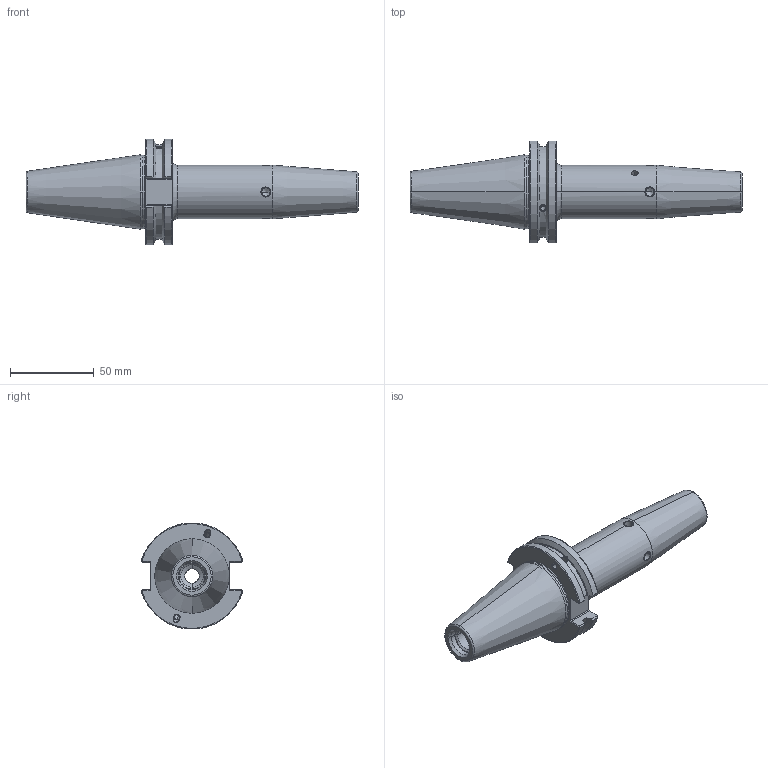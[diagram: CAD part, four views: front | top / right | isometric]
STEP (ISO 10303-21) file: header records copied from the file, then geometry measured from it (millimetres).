
FILE_DESCRIPTION((''),'2;1');
FILE_NAME('CAT40ADB-SFH12_7C-130','2020-09-02T08:31:10',('ssktool'),(''),'CREO PARAMETRIC BY PTC INC, 2018100','CREO PARAMETRIC BY PTC INC, 2018100','');
FILE_SCHEMA(('CONFIG_CONTROL_DESIGN'));
Length unit declared in the file: millimetre
Products named in the file (1): CAT40ADB-SFH12_7C-130
Bounding box: 198.25 x 60.84 x 63.27 mm (x, y, z)
Volume: 165754.7 mm3; surface area: 39492 mm2
Topology: 1 solids, 10 shells, 199 faces, 529 edges, 332 vertices
Faces by surface type: cylinder 86, plane 53, cone 38, torus 18, bspline 4
Entity records: 6862 total; most frequent: CARTESIAN_POINT 2051, DIRECTION 976, ORIENTED_EDGE 970, EDGE_CURVE 513, AXIS2_PLACEMENT_3D 389, VERTEX_POINT 332, EDGE_LOOP 231, FACE_OUTER_BOUND 199
